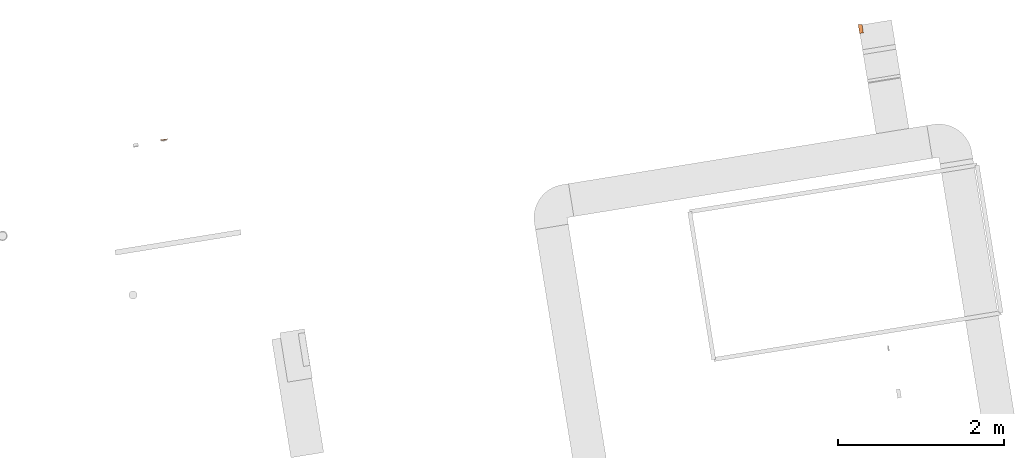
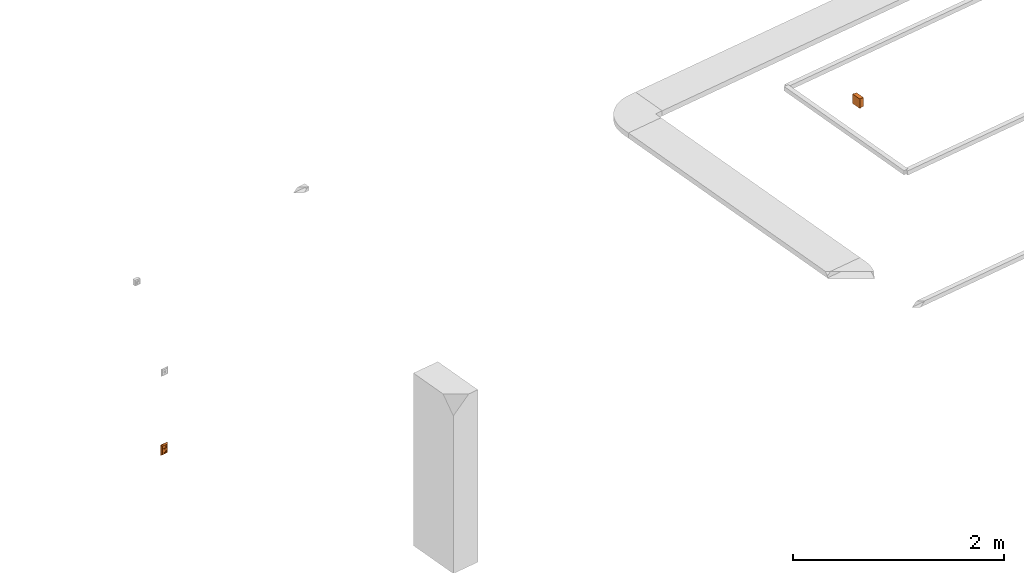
# One storey, part 18 of 20: 2 proxies.
"""IFC2X3 building model written with IfcOpenShell, lengths in millimetres."""

import ifcopenshell
import ifcopenshell.guid

model = None  # the IFC model being written
_history = None  # IfcOwnerHistory: only IFC2X3 demands one
_inside = {}  # id of a spatial element -> (the spatial element, [elements in it])
_under = {}  # id of a project, library or spatial element -> (it, [spatial elements below it])
_declared = {}  # id of a project -> (the project, [libraries it declares])
_typed = {}  # id of a type object -> (the type object, [elements of that type])
_made_of = {}  # id of a material, layer set ... -> (it, [elements and type objects made of it])


def new_model(schema):
    """Start an empty IFC model of exactly this schema.

    Asked for "IFC4X3", IfcOpenShell would pick the latest addendum, in which some entities
    have other attributes; the version numbers below select the first issue.
    IFC2X3 requires an IfcOwnerHistory on every rooted entity: one is made here for all.
    """
    global model, _history
    if schema == "IFC4X3":
        model = ifcopenshell.file(schema_version=(4, 3, 0, 0))
    else:
        model = ifcopenshell.file(schema=schema)
    _inside.clear()
    _under.clear()
    _declared.clear()
    _typed.clear()
    _made_of.clear()
    _history = None
    if model.schema == "IFC2X3":
        org = make("IfcOrganization", Name="unknown")
        user = make(
            "IfcPersonAndOrganization",
            ThePerson=make("IfcPerson", FamilyName="unknown"),
            TheOrganization=org,
        )
        app = make(
            "IfcApplication",
            ApplicationDeveloper=org,
            Version="unknown",
            ApplicationFullName="unknown",
            ApplicationIdentifier="unknown",
        )
        _history = make(
            "IfcOwnerHistory",
            OwningUser=user,
            OwningApplication=app,
            ChangeAction="ADDED",
            CreationDate=0,
        )
    return model


def make(cls, **values):
    """One entity of the class cls with the attributes given. An attribute that is None is left unset."""
    return model.create_entity(
        cls, **{name: value for name, value in values.items() if value is not None}
    )


def entity(cls, *values):
    """Any entity or typed value of the class cls, its attributes in the order of the schema. None: left unset."""
    e = model.create_entity(cls)
    for i, value in enumerate(values):
        if value is not None:
            e[i] = value
    return e


def rooted(cls, **values):
    """An entity with a GlobalId (a new one), such as an element, a storey or a relation."""
    return make(cls, GlobalId=ifcopenshell.guid.new(), OwnerHistory=_history, **values)


def si_unit(unit_type, name, prefix=None):
    """IfcSIUnit, for example si_unit("LENGTHUNIT", "METRE", prefix="MILLI")."""
    return make("IfcSIUnit", UnitType=unit_type, Prefix=prefix, Name=name)


def converted_unit(unit_type, name, factor, base, dimensions=None, offset=None):
    """IfcConversionBasedUnit, such as the inch: factor (a typed value) times the base unit."""
    return make(
        "IfcConversionBasedUnit"
        if offset is None
        else "IfcConversionBasedUnitWithOffset",
        ConversionOffset=offset,
        Dimensions=None
        if dimensions is None
        else entity("IfcDimensionalExponents", *dimensions),
        UnitType=unit_type,
        Name=name,
        ConversionFactor=make(
            "IfcMeasureWithUnit", ValueComponent=factor, UnitComponent=base
        ),
    )


def derived_unit(unit_type, elements):
    """IfcDerivedUnit: a product of units, each with its exponent."""
    return make(
        "IfcDerivedUnit",
        Elements=[
            make("IfcDerivedUnitElement", Unit=unit, Exponent=power)
            for unit, power in elements
        ],
        UnitType=unit_type,
    )


def assignment(units):
    """IfcUnitAssignment: the units of a project."""
    return None if units is None else make("IfcUnitAssignment", Units=units)


def point(xyz):
    """IfcCartesianPoint."""
    return None if xyz is None else make("IfcCartesianPoint", Coordinates=xyz)


def direction(xyz):
    """IfcDirection."""
    return None if xyz is None else make("IfcDirection", DirectionRatios=xyz)


def frame(location, z_axis=None, x_axis=None):
    """IfcAxis2Placement3D, a coordinate frame: its origin and axes. An axis left out is left unset."""
    return make(
        "IfcAxis2Placement3D",
        Location=point(location),
        Axis=direction(z_axis),
        RefDirection=direction(x_axis),
    )


def frame_2d(location, x_axis=None):
    """IfcAxis2Placement2D, a coordinate frame in the plane: its origin and x axis."""
    return make(
        "IfcAxis2Placement2D", Location=point(location), RefDirection=direction(x_axis)
    )


def origin():
    """The frame at (0, 0, 0) with its axes left unset."""
    return frame((0.0, 0.0, 0.0))


def origin_with_axes():
    """The frame at (0, 0, 0) with the z axis (0, 0, 1) and the x axis (1, 0, 0) written out."""
    return frame((0.0, 0.0, 0.0), z_axis=(0.0, 0.0, 1.0), x_axis=(1.0, 0.0, 0.0))


def origin_2d_with_axis():
    """The frame at (0, 0) in the plane with the x axis (1, 0) written out."""
    return frame_2d((0.0, 0.0), x_axis=(1.0, 0.0))


def place(relative_to, where):
    """IfcLocalPlacement: puts the frame where relative to a parent placement (None: the world)."""
    return make(
        "IfcLocalPlacement", PlacementRelTo=relative_to, RelativePlacement=where
    )


def context(
    kind, dimensions, precision=None, world=None, true_north=None, identifier=None
):
    """IfcGeometricRepresentationContext, for example the 3D "Model" context."""
    return make(
        "IfcGeometricRepresentationContext",
        ContextIdentifier=identifier,
        ContextType=kind,
        CoordinateSpaceDimension=dimensions,
        Precision=precision,
        WorldCoordinateSystem=world,
        TrueNorth=true_north,
    )


def subcontext(parent, identifier, kind, view, scale=None):
    """IfcGeometricRepresentationSubContext, for example "Body" below "Model"."""
    return make(
        "IfcGeometricRepresentationSubContext",
        ContextIdentifier=identifier,
        ContextType=kind,
        ParentContext=parent,
        TargetScale=scale,
        TargetView=view,
    )


def project(units=None, contexts=None):
    """IfcProject with its units and contexts."""
    return rooted(
        "IfcProject",
        Name="project",
        RepresentationContexts=contexts,
        UnitsInContext=assignment(units),
    )


def spatial(cls, under=None, at=None, **own):
    """A site, building, storey or space (cls), placed at a placement, below another one or the project."""
    s = rooted(cls, ObjectPlacement=at, **own)
    if under is not None:
        _under.setdefault(under.id(), (under, []))[1].append(s)
    return s


def profile(cls, at=None, kind="AREA", **sizes):
    """A parametric profile (cls). Its sizes go by their IFC names, for example OverallWidth=200.0."""
    return make(cls, ProfileType=kind, Position=at, **sizes)


def rectangle(**sizes):
    """IfcRectangleProfileDef."""
    return profile("IfcRectangleProfileDef", **sizes)


def extrude(swept, where, along, depth):
    """IfcExtrudedAreaSolid: the profile swept, set in the frame where, extruded along a direction by depth."""
    return make(
        "IfcExtrudedAreaSolid",
        SweptArea=swept,
        Position=where,
        ExtrudedDirection=direction(along),
        Depth=depth,
    )


def faces_of(points, faces, orient=None, outer=None):
    """IfcFace entities. A face is a list of loops; a loop is a list of indices into points, from 0.

    orient and outer hold one flag for each loop. By default every Orientation is true, the
    first loop of a face is its IfcFaceOuterBound and the others are IfcFaceBound.
    """
    made = []
    for i, loops in enumerate(faces):
        bounds = []
        for j, loop in enumerate(loops):
            is_outer = j == 0 if outer is None else outer[i][j]
            bounds.append(
                make(
                    "IfcFaceOuterBound" if is_outer else "IfcFaceBound",
                    Bound=make("IfcPolyLoop", Polygon=[points[k] for k in loop]),
                    Orientation=True if orient is None else orient[i][j],
                )
            )
        made.append(make("IfcFace", Bounds=bounds))
    return made


def faceted_brep(points, faces, orient=None, outer=None, voids=None):
    """IfcFacetedBrep: a solid bounded by flat faces; with voids (closed shells), ...WithVoids."""
    shared = [point(p) for p in points]
    hull = make("IfcClosedShell", CfsFaces=faces_of(shared, faces, orient, outer))
    if voids is None:
        return make("IfcFacetedBrep", Outer=hull)
    return make(
        "IfcFacetedBrepWithVoids",
        Outer=hull,
        Voids=[
            make(cls, CfsFaces=faces_of(shared, fs, o, b)) for cls, fs, o, b in voids
        ],
    )


def shape(context_of_items, identifier, shape_type, items):
    """IfcShapeRepresentation: the items that make up one representation, for example the "Body"."""
    return make(
        "IfcShapeRepresentation",
        ContextOfItems=context_of_items,
        RepresentationIdentifier=identifier,
        RepresentationType=shape_type,
        Items=items,
    )


def source(mapping_origin, context_of_items, identifier, shape_type, items):
    """IfcRepresentationMap: a shape defined once, which mapped items show again and again."""
    return make(
        "IfcRepresentationMap",
        MappingOrigin=mapping_origin,
        MappedRepresentation=shape(context_of_items, identifier, shape_type, items),
    )


def transform(
    local_origin,
    x_axis=None,
    y_axis=None,
    z_axis=None,
    scale=None,
    scale2=None,
    scale3=None,
    uniform=True,
):
    """IfcCartesianTransformationOperator3D, or its non-uniform kind. x_axis, y_axis, z_axis: its Axis1, 2, 3."""
    if uniform:
        return make(
            "IfcCartesianTransformationOperator3D",
            Axis1=direction(x_axis),
            Axis2=direction(y_axis),
            LocalOrigin=point(local_origin),
            Scale=scale,
            Axis3=direction(z_axis),
        )
    return make(
        "IfcCartesianTransformationOperator3DnonUniform",
        Axis1=direction(x_axis),
        Axis2=direction(y_axis),
        LocalOrigin=point(local_origin),
        Scale=scale,
        Axis3=direction(z_axis),
        Scale2=scale2,
        Scale3=scale3,
    )


def mapped(mapping_source, mapping_target):
    """IfcMappedItem: shows the shape of a source again, moved by a transform."""
    return make(
        "IfcMappedItem", MappingSource=mapping_source, MappingTarget=mapping_target
    )


def material(Name=None, Category=None):
    """IfcMaterial."""
    return make("IfcMaterial", Name=Name, Category=Category)


def material_list(materials):
    """IfcMaterialList."""
    return make("IfcMaterialList", Materials=materials)


def made_of(thing, what):
    """Note that an element or type object is made of a material, layer set ...; save() writes the relation."""
    if what is not None:
        _made_of.setdefault(what.id(), (what, []))[1].append(thing)
    return thing


def type_object(cls, material=None, **own):
    """A type object (cls), such as IfcWallType, which elements share."""
    return made_of(rooted(cls, **own), material)


def element(
    cls,
    number,
    at=None,
    inside=None,
    cuts=None,
    type_object=None,
    material=None,
    context=None,
    identifier="Body",
    shape_type=None,
    held_by="IfcProductDefinitionShape",
    body=None,
    shapes=None,
    **own,
):
    """One element of the class cls, such as IfcWall. Its Tag is "e" and its number.

    at: its placement. inside: the storey or other place that contains it. cuts: it is an
    opening in that element (IfcRelVoidsElement). A single representation is given by context,
    identifier, shape_type and body (its items); several are given by shapes. held_by: the class
    of the entity that holds the representations. save() writes the other relations.
    """
    e = rooted(cls, Tag="e%d" % number, ObjectPlacement=at, **own)
    if body is not None:
        shapes = [shape(context, identifier, shape_type, body)]
    if shapes is not None:
        e.Representation = make(held_by, Representations=shapes)
    if inside is not None:
        _inside.setdefault(inside.id(), (inside, []))[1].append(e)
    if cuts is not None:
        rooted(
            "IfcRelVoidsElement", RelatingBuildingElement=cuts, RelatedOpeningElement=e
        )
    if type_object is not None:
        _typed.setdefault(type_object.id(), (type_object, []))[1].append(e)
    return made_of(e, material)


def aggregate(whole, parts):
    """IfcRelAggregates: a whole, such as a stair, and the parts it consists of."""
    return rooted("IfcRelAggregates", RelatingObject=whole, RelatedObjects=parts)


def save(model, path):
    """Write the relations noted so far, then the file.

    IfcRelAggregates (storeys below a building ...), IfcRelContainedInSpatialStructure (elements
    in a storey), IfcRelDefinesByType, IfcRelAssociatesMaterial and IfcRelDeclares: one each for
    every whole, place, type object, material and project.
    """
    for whole, parts in _under.values():
        aggregate(whole, parts)
    for where, things in _inside.values():
        rooted(
            "IfcRelContainedInSpatialStructure",
            RelatedElements=things,
            RelatingStructure=where,
        )
    for kind, things in _typed.values():
        rooted("IfcRelDefinesByType", RelatedObjects=things, RelatingType=kind)
    for what, things in _made_of.values():
        rooted("IfcRelAssociatesMaterial", RelatedObjects=things, RelatingMaterial=what)
    for by, libraries in _declared.values():
        rooted("IfcRelDeclares", RelatingContext=by, RelatedDefinitions=libraries)
    model.write(path)


model = new_model("IFC2X3")

# Units and contexts
model_context = context("Model", 3, precision=0.01, world=origin(), true_north=direction((6.12323399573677e-17, 1.0)))
plan_context = context("Plan", 3, precision=1e-05, world=origin_with_axes())
body_context = subcontext(model_context, "Body", "Model", "MODEL_VIEW")
ifc_project = project(units=[converted_unit("PLANEANGLEUNIT", "DEGREE", entity("IfcPositiveLengthMeasure", 0.0174532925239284), si_unit("PLANEANGLEUNIT", "RADIAN"), dimensions=[0, 0, 0, 0, 0, 0, 0]), si_unit("AREAUNIT", "SQUARE_METRE"), si_unit("LENGTHUNIT", "METRE", prefix="MILLI"), si_unit("MASSUNIT", "GRAM", prefix="KILO"), si_unit("POWERUNIT", "WATT"), si_unit("PRESSUREUNIT", "PASCAL", prefix="KILO"), si_unit("FORCEUNIT", "NEWTON", prefix="KILO"), si_unit("ELECTRICVOLTAGEUNIT", "VOLT"), si_unit("ELECTRICCURRENTUNIT", "AMPERE"), si_unit("THERMODYNAMICTEMPERATUREUNIT", "DEGREE_CELSIUS"), si_unit("TIMEUNIT", "SECOND"), si_unit("VOLUMEUNIT", "CUBIC_METRE"), derived_unit("LINEARVELOCITYUNIT", [(si_unit("LENGTHUNIT", "METRE"), 1), (si_unit("TIMEUNIT", "SECOND"), -1)]), derived_unit("VOLUMETRICFLOWRATEUNIT", [(si_unit("VOLUMEUNIT", "CUBIC_METRE"), 1), (si_unit("TIMEUNIT", "SECOND"), -1)]), derived_unit("THERMALTRANSMITTANCEUNIT", [(si_unit("POWERUNIT", "WATT"), 1), (si_unit("THERMODYNAMICTEMPERATUREUNIT", "KELVIN"), -1), (si_unit("AREAUNIT", "SQUARE_METRE"), -1)]), derived_unit("SOUNDPRESSUREUNIT", [(si_unit("PRESSUREUNIT", "PASCAL"), 1)])], contexts=[model_context, plan_context])

# Site, building, storey
site_placement = place(None, frame((-0.219946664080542, 0.12226179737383, 0.0), z_axis=(0.0, 0.0, 1.0), x_axis=(-0.160236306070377, 0.987078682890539, 0.0)))
site = spatial("IfcSite", under=ifc_project, at=site_placement, Name="Default", CompositionType="ELEMENT")
building_placement = place(site_placement, origin_with_axes())
building = spatial("IfcBuilding", under=site, at=building_placement, CompositionType="ELEMENT")
storey_placement = place(building_placement, frame((0.0, 0.0, 50999.9999999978), z_axis=(0.0, 0.0, 1.0), x_axis=(1.0, 0.0, 0.0)))
storey = spatial("IfcBuildingStorey", under=building, at=storey_placement, Name="Nivå D", CompositionType="ELEMENT", Elevation=50999.9999999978)

# Proxies
ifc_material_1 = material(Name="Material3")
ifc_material_2 = material(Name="Material2")
ifc_material_3 = material(Name="Material1")
ifc_material_list = material_list([ifc_material_1, ifc_material_2, ifc_material_3])
building_element_proxy_type_1 = type_object("IfcBuildingElementProxyType", Name="Dobbel stikk vegg innf 2P+J vert PH:RECESSED-EARTHED-SOCKET-2(VER)", PredefinedType="NOTDEFINED", material=ifc_material_list)
shared_shape_1 = source(origin(), body_context, "Body", "Brep", [
    faceted_brep([(0.499999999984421, 17.9077381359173, -43.2900460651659), (0.499999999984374, 17.4980087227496, -43.5927590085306), (0.499999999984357, 17.0, -43.6999999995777), (0.499999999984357, 5.0, -43.6999999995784), (0.499999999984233, 5.0, -44.4999999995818), (0.499999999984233, 17.0, -44.4999999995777), (0.499999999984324, 18.4212520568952, -43.9112981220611), (0.499999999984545, 19.0099539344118, -42.490046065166), (0.499999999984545, 13.0337787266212, -42.4900460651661), (0.499999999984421, 13.0337787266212, -43.2900460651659), (-0.500000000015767, 5.0, -44.4999999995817), (-0.500000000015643, 5.0, -43.6999999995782), (-0.500000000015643, 17.0, -43.6999999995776), (-0.500000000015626, 17.4980087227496, -43.5927590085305), (-0.500000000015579, 17.9077381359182, -43.2900460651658), (-0.500000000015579, 13.0337787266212, -43.2900460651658), (-0.500000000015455, 13.0337787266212, -42.4900460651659), (-0.500000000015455, 19.0099539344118, -42.4900460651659), (-0.500000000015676, 18.4212520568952, -43.911298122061), (-0.500000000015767, 17.0, -44.4999999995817)], [[[0, 1, 2, 3, 4, 5, 6, 7, 8, 9]], [[10, 11, 12, 13, 14, 15, 16, 17, 18, 19]], [[10, 19, 5, 4]], [[11, 10, 4, 3]], [[12, 11, 3, 2]], [[2, 1, 13, 12]], [[0, 14, 13, 1]], [[15, 14, 0, 9]], [[16, 15, 9, 8]], [[17, 16, 8, 7]], [[17, 7, 6, 18]], [[6, 5, 19, 18]]]),
    faceted_brep([(-0.500000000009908, 17.9240022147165, -6.72220296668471), (-0.500000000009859, 17.5079457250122, -6.41055048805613), (-0.500000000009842, 17.0, -6.29999999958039), (-0.500000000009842, 5.0, -6.29999999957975), (-0.500000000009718, 5.0, -5.49999999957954), (-0.500000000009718, 17.0, -5.49999999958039), (-0.50000000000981, 18.429913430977, -6.09228953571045), (-0.500000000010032, 19.022202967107, -7.52220296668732), (-0.500000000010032, 13.0667616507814, -7.52220296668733), (-0.500000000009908, 13.0667616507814, -6.7222029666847), (0.499999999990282, 5.0, -5.4999999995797), (0.499999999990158, 5.0, -6.29999999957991), (0.499999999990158, 17.0, -6.29999999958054), (0.499999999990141, 17.5079457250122, -6.41055048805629), (0.499999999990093, 17.9240022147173, -6.72220296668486), (0.499999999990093, 13.0667616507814, -6.72220296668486), (0.499999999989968, 13.0667616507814, -7.52220296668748), (0.499999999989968, 19.022202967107, -7.52220296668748), (0.49999999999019, 18.429913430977, -6.09228953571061), (0.499999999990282, 17.0, -5.4999999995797)], [[[0, 1, 2, 3, 4, 5, 6, 7, 8, 9]], [[10, 11, 12, 13, 14, 15, 16, 17, 18, 19]], [[5, 19, 18, 6]], [[18, 17, 7, 6]], [[8, 7, 17, 16]], [[9, 8, 16, 15]], [[0, 9, 15, 14]], [[14, 13, 1, 0]], [[12, 2, 1, 13]], [[3, 2, 12, 11]], [[4, 3, 11, 10]], [[5, 4, 10, 19]]]),
    faceted_brep([(-0.500000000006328, 18.4212520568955, 6.0887018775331), (-0.500000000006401, 17.0, 5.5000000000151), (-0.500000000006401, 5.0, 5.5000000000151), (-0.500000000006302, 5.0, 6.30000000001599), (-0.500000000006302, 17.0, 6.30000000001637), (-0.500000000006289, 17.4980087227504, 6.40724099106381), (-0.500000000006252, 17.9077381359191, 6.70995393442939), (-0.500000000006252, 13.0337787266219, 6.70995393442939), (-0.500000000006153, 13.0337787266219, 7.50995393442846), (-0.500000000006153, 19.0099539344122, 7.50995393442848), (0.499999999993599, 5.0, 5.50000000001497), (0.499999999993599, 17.0, 5.50000000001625), (0.499999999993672, 18.4212520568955, 6.08870187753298), (0.499999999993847, 19.0099539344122, 7.50995393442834), (0.499999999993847, 13.0337787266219, 7.50995393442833), (0.499999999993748, 13.0337787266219, 6.70995393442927), (0.499999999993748, 17.9077381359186, 6.70995393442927), (0.499999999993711, 17.4980087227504, 6.40724099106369), (0.499999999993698, 17.0, 6.30000000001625), (0.499999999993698, 5.0, 6.30000000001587)], [[[0, 1, 2, 3, 4, 5, 6, 7, 8, 9]], [[10, 11, 12, 13, 14, 15, 16, 17, 18, 19]], [[2, 1, 11, 10]], [[3, 2, 10, 19]], [[4, 3, 19, 18]], [[18, 17, 5, 4]], [[16, 6, 5, 17]], [[7, 6, 16, 15]], [[8, 7, 15, 14]], [[9, 8, 14, 13]], [[9, 13, 12, 0]], [[12, 11, 1, 0]]]),
    faceted_brep([(-0.50000000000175, 17.9240022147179, 43.2777970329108), (-0.500000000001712, 17.5079457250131, 43.5894495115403), (-0.500000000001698, 17.0, 43.7000000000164), (-0.500000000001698, 5.0, 43.7000000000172), (-0.5000000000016, 5.0, 44.5000000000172), (-0.5000000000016, 17.0, 44.5000000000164), (-0.500000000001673, 18.4299134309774, 43.9077104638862), (-0.500000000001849, 19.0222029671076, 42.4777970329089), (-0.500000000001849, 13.0667616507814, 42.4777970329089), (-0.50000000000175, 13.0667616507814, 43.2777970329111), (0.4999999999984, 5.0, 44.5000000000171), (0.499999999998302, 5.0, 43.7000000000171), (0.499999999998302, 17.0, 43.7000000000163), (0.499999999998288, 17.5079457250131, 43.5894495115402), (0.49999999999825, 17.9240022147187, 43.277797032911), (0.49999999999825, 13.0667616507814, 43.277797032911), (0.499999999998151, 13.0667616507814, 42.4777970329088), (0.499999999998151, 19.0222029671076, 42.4777970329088), (0.499999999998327, 18.4299134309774, 43.9077104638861), (0.4999999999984, 17.0, 44.5000000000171)], [[[0, 1, 2, 3, 4, 5, 6, 7, 8, 9]], [[10, 11, 12, 13, 14, 15, 16, 17, 18, 19]], [[5, 19, 18, 6]], [[18, 17, 7, 6]], [[8, 7, 17, 16]], [[9, 8, 16, 15]], [[0, 9, 15, 14]], [[14, 13, 1, 0]], [[12, 2, 1, 13]], [[3, 2, 12, 11]], [[4, 3, 11, 10]], [[5, 4, 10, 19]]]),
    faceted_brep([(-8.89218180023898, 5.50000000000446, -26.4355061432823), (-10.0, 5.50000000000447, -27.5433243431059), (-11.2716621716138, 5.50000000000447, -26.2716621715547), (-12.5433243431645, 5.50000000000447, -25.0), (-11.107818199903, 5.50000000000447, -23.5644938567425), (-10.0, 5.50000000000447, -22.456675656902), (-8.72833782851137, 5.50000000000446, -23.7283378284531), (-7.45667565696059, 5.50000000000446, -25.0), (-7.45667565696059, 5.0, -25.0), (-8.72833782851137, 5.0, -23.7283378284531), (-10.0, 5.0, -22.456675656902), (-11.2716621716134, 5.0, -23.7283378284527), (-12.5433243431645, 5.0, -25.0), (-11.2716621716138, 5.0, -26.2716621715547), (-10.0, 5.0, -27.5433243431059), (-8.72833782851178, 5.0, -26.2716621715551)], [[[0, 1, 2, 3, 4, 5, 6, 7]], [[8, 9, 10, 11, 12, 13, 14, 15]], [[11, 10, 5, 4, 3, 12]], [[13, 12, 3, 2, 1, 14]], [[15, 14, 1, 0, 7, 8]], [[9, 8, 7, 6, 5, 10]]]),
    faceted_brep([(12.5429237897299, 5.0, -25.0), (11.2714618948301, 5.0, -23.7285381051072), (10.0, 5.0, -22.457076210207), (8.72853810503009, 5.0, -23.7285381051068), (7.4570762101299, 5.0, -25.0), (8.72853810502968, 5.0, -26.2714618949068), (10.0, 5.0, -27.542923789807), (11.2714618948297, 5.0, -26.2714618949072), (11.1077309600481, 5.50000000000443, -23.5648071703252), (12.5429237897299, 5.50000000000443, -25.0), (11.2714618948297, 5.50000000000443, -26.2714618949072), (10.0, 5.50000000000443, -27.542923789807), (8.89226903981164, 5.50000000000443, -26.4351928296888), (7.4570762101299, 5.50000000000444, -25.0), (8.72853810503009, 5.50000000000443, -23.7285381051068), (10.0, 5.50000000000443, -22.457076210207)], [[[0, 1, 2, 3, 4, 5, 6, 7]], [[8, 9, 10, 11, 12, 13, 14, 15]], [[15, 14, 13, 4, 3, 2]], [[13, 12, 11, 6, 5, 4]], [[11, 10, 9, 0, 7, 6]], [[9, 8, 15, 2, 1, 0]]]),
    faceted_brep([(-7.54751482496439, 5.50000000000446, 25.0), (-8.9121454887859, 5.50000000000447, 23.6353693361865), (-10.0, 5.50000000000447, 22.5475148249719), (-11.2262425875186, 5.50000000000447, 23.7737574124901), (-12.4524851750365, 5.50000000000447, 25.0), (-11.0878545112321, 5.50000000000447, 26.3646306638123), (-10.0, 5.50000000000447, 27.452485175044), (-8.77375741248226, 5.50000000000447, 26.2262425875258), (-11.2262425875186, 5.0, 23.7737574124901), (-10.0, 5.0, 22.5475148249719), (-8.77375741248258, 5.0, 23.7737574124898), (-7.54751482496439, 5.0, 25.0), (-8.77375741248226, 5.0, 26.2262425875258), (-10.0, 5.0, 27.452485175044), (-11.2262425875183, 5.0, 26.2262425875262), (-12.4524851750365, 5.0, 25.0)], [[[0, 1, 2, 3, 4, 5, 6, 7]], [[8, 9, 10, 11, 12, 13, 14, 15]], [[14, 13, 6, 5, 4, 15]], [[8, 15, 4, 3, 2, 9]], [[10, 9, 2, 1, 0, 11]], [[12, 11, 0, 7, 6, 13]]]),
    faceted_brep([(8.76085027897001, 5.0, 23.7608502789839), (10.0, 5.0, 22.5217005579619), (11.2391497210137, 5.0, 23.7608502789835), (12.4782994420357, 5.0, 25.0), (11.239149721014, 5.0, 26.2391497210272), (10.0, 5.0, 27.4782994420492), (8.76085027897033, 5.0, 26.2391497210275), (7.52170055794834, 5.0, 25.0), (11.2391497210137, 5.50000000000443, 23.7608502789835), (10.0, 5.50000000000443, 22.5217005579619), (8.90643522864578, 5.50000000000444, 23.6152653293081), (7.52170055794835, 5.50000000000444, 25.0), (8.76085027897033, 5.50000000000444, 26.2391497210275), (10.0, 5.50000000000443, 27.4782994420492), (11.0935647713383, 5.50000000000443, 26.384734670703), (12.4782994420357, 5.50000000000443, 25.0)], [[[0, 1, 2, 3, 4, 5, 6, 7]], [[8, 9, 10, 11, 12, 13, 14, 15]], [[13, 12, 11, 7, 6, 5]], [[11, 10, 9, 1, 0, 7]], [[9, 8, 15, 3, 2, 1]], [[15, 14, 13, 5, 4, 3]]]),
    faceted_brep([(41.0, 5.0, -60.0), (19.318516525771, 5.0, -30.1763809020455), (17.3205080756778, 5.0, -35.0), (20.0, 5.0, -25.0), (14.1421356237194, 5.0, -39.1421356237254), (10.0, 5.0, -42.3205080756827), (5.17638090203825, 5.0, -44.3185165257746), (0.0, 5.0, -45.0), (19.3185165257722, 5.0, -19.8236190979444), (19.3185165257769, 5.0, 19.8236190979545), (-41.0, 5.0, -60.0), (41.0, 5.0, 60.0), (20.0, 5.0, 25.0), (19.3185165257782, 5.0, 30.1763809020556), (17.3205080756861, 5.0, 35.0), (14.1421356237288, 5.0, 39.1421356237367), (10.0, 5.0, 42.320508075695), (5.17638090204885, 5.0, 44.3185165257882), (0.0, 5.0, 45.0), (-41.0, 5.0, 60.0), (-19.3185165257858, 5.0, 19.8236190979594), (-20.0, 5.0, 25.0), (-5.17638090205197, 5.0, 44.3185165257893), (-10.0, 5.0, 42.3205080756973), (-14.1421356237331, 5.0, 39.14213562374), (-17.3205080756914, 5.0, 35.0), (-19.3185165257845, 5.0, 30.17638090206), (17.3205080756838, 5.0, 15.0), (17.3205080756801, 5.0, -15.0), (14.1421356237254, 5.0, 10.8578643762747), (14.1421356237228, 5.0, -10.8578643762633), (10.0, 5.0, 7.67949192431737), (10.0, 5.0, -7.67949192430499), (5.17638090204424, 5.0, 5.68148347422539), (5.17638090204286, 5.0, -5.68148347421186), (0.0, 5.0, -5.0), (0.0, 5.0, 5.0), (-5.17638090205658, 5.0, 5.68148347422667), (-5.17638090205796, 5.0, -5.68148347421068), (-10.0, 5.0, -7.67949192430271), (-10.0, 5.0, 7.67949192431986), (-14.1421356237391, 5.0, -10.8578643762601), (-14.1421356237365, 5.0, 10.8578643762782), (-17.3205080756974, 5.0, -15.0), (-17.3205080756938, 5.0, 15.0), (-19.3185165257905, 5.0, -19.82361909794), (-20.0, 5.0, -25.0), (-5.17638090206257, 5.0, -44.3185165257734), (-10.0, 5.0, -42.3205080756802), (-14.1421356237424, 5.0, -39.1421356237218), (-17.3205080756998, 5.0, -35.0), (-19.3185165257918, 5.0, -30.1763809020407), (-31.0, 17.0, -50.0), (-19.3185165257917, 17.0, -30.1763809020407), (-17.3205080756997, 17.0, -35.0), (-20.0, 17.0, -25.0), (-14.1421356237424, 17.0, -39.1421356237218), (-10.0, 17.0, -42.3205080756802), (-5.17638090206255, 17.0, -44.3185165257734), (0.0, 17.0, -45.0), (-19.3185165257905, 17.0, -19.82361909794), (-19.3185165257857, 17.0, 19.8236190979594), (31.0, 17.0, -50.0), (-31.0, 17.0, 50.0), (-20.0, 17.0, 25.0), (-19.3185165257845, 17.0, 30.17638090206), (-17.3205080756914, 17.0, 35.0), (-14.1421356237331, 17.0, 39.14213562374), (-10.0, 17.0, 42.3205080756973), (-5.17638090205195, 17.0, 44.3185165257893), (0.0, 17.0, 45.0), (31.0, 17.0, 50.0), (5.17638090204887, 17.0, 44.3185165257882), (10.0, 17.0, 42.320508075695), (14.1421356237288, 17.0, 39.1421356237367), (17.3205080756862, 17.0, 35.0), (19.3185165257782, 17.0, 30.1763809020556), (20.0, 17.0, 25.0), (19.318516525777, 17.0, 19.8236190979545), (5.17638090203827, 17.0, -44.3185165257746), (10.0, 17.0, -42.3205080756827), (14.1421356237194, 17.0, -39.1421356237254), (17.3205080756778, 17.0, -35.0), (19.318516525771, 17.0, -30.1763809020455), (20.0, 17.0, -25.0), (19.3185165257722, 17.0, -19.8236190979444), (17.3205080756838, 17.0, 15.0), (-17.3205080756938, 17.0, 15.0), (-17.3205080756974, 17.0, -15.0), (-14.1421356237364, 17.0, 10.8578643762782), (-14.1421356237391, 17.0, -10.8578643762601), (-10.0, 17.0, 7.67949192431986), (-10.0, 17.0, -7.67949192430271), (-5.17638090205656, 17.0, 5.68148347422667), (-5.17638090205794, 17.0, -5.68148347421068), (0.0, 17.0, -5.0), (0.0, 17.0, 5.0), (5.17638090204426, 17.0, 5.68148347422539), (5.17638090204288, 17.0, -5.68148347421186), (10.0, 17.0, -7.67949192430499), (10.0, 17.0, 7.67949192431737), (14.1421356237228, 17.0, -10.8578643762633), (14.1421356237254, 17.0, 10.8578643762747), (17.3205080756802, 17.0, -15.0)], [[[0, 1, 2]], [[1, 0, 3]], [[0, 2, 4]], [[4, 5, 0]], [[5, 6, 0]], [[0, 6, 7]], [[8, 3, 0]], [[8, 0, 9]], [[7, 10, 0]], [[0, 11, 9]], [[11, 12, 9]], [[12, 11, 13]], [[13, 11, 14]], [[15, 14, 11]], [[15, 11, 16]], [[17, 16, 11]], [[11, 18, 17]], [[18, 11, 19]], [[20, 19, 10]], [[20, 21, 19]], [[22, 18, 19]], [[23, 22, 19]], [[19, 24, 23]], [[24, 19, 25]], [[26, 25, 19]], [[26, 19, 21]], [[27, 8, 9]], [[27, 28, 8]], [[27, 29, 28]], [[28, 29, 30]], [[29, 31, 30]], [[32, 30, 31]], [[31, 33, 32]], [[32, 33, 34]], [[35, 34, 33]], [[33, 36, 35]], [[36, 37, 35]], [[35, 37, 38]], [[39, 38, 37]], [[37, 40, 39]], [[41, 39, 40]], [[40, 42, 41]], [[41, 42, 43]], [[42, 44, 43]], [[44, 45, 43]], [[20, 45, 44]], [[10, 45, 20]], [[46, 45, 10]], [[7, 47, 10]], [[47, 48, 10]], [[49, 10, 48]], [[10, 49, 50]], [[10, 50, 51]], [[51, 46, 10]], [[52, 53, 54]], [[53, 52, 55]], [[52, 54, 56]], [[56, 57, 52]], [[57, 58, 52]], [[52, 58, 59]], [[60, 55, 52]], [[52, 61, 60]], [[59, 62, 52]], [[61, 52, 63]], [[63, 64, 61]], [[64, 63, 65]], [[65, 63, 66]], [[67, 66, 63]], [[67, 63, 68]], [[69, 68, 63]], [[63, 70, 69]], [[70, 63, 71]], [[72, 70, 71]], [[73, 72, 71]], [[71, 74, 73]], [[74, 71, 75]], [[76, 75, 71]], [[76, 71, 77]], [[78, 77, 71]], [[78, 71, 62]], [[59, 79, 62]], [[79, 80, 62]], [[81, 62, 80]], [[62, 81, 82]], [[62, 82, 83]], [[83, 84, 62]], [[84, 85, 62]], [[62, 85, 78]], [[86, 78, 85]], [[61, 87, 60]], [[88, 60, 87]], [[87, 89, 88]], [[88, 89, 90]], [[89, 91, 90]], [[92, 90, 91]], [[91, 93, 92]], [[92, 93, 94]], [[95, 94, 93]], [[93, 96, 95]], [[96, 97, 95]], [[95, 97, 98]], [[99, 98, 97]], [[97, 100, 99]], [[101, 99, 100]], [[100, 102, 101]], [[101, 102, 103]], [[102, 86, 103]], [[85, 103, 86]], [[10, 52, 62, 0]], [[0, 62, 71, 11]], [[11, 71, 63, 19]], [[19, 63, 52, 10]], [[64, 21, 20, 61]], [[61, 20, 44, 87]], [[91, 89, 42, 40]], [[42, 89, 87, 44]], [[93, 91, 40, 37]], [[93, 37, 36, 96]], [[96, 36, 33, 97]], [[97, 33, 31, 100]], [[86, 102, 29, 27]], [[29, 102, 100, 31]], [[78, 86, 27, 9]], [[78, 9, 12, 77]], [[77, 12, 13, 76]], [[76, 13, 14, 75]], [[73, 74, 15, 16]], [[15, 74, 75, 14]], [[72, 73, 16, 17]], [[72, 17, 18, 70]], [[70, 18, 22, 69]], [[69, 22, 23, 68]], [[66, 67, 24, 25]], [[24, 67, 68, 23]], [[65, 66, 25, 26]], [[65, 26, 21, 64]], [[55, 46, 51, 53]], [[53, 51, 50, 54]], [[57, 56, 49, 48]], [[49, 56, 54, 50]], [[58, 57, 48, 47]], [[58, 47, 7, 59]], [[59, 7, 6, 79]], [[79, 6, 5, 80]], [[82, 81, 4, 2]], [[4, 81, 80, 5]], [[83, 82, 2, 1]], [[83, 1, 3, 84]], [[84, 3, 8, 85]], [[85, 8, 28, 103]], [[99, 101, 30, 32]], [[30, 101, 103, 28]], [[98, 99, 32, 34]], [[98, 34, 35, 95]], [[95, 35, 38, 94]], [[94, 38, 39, 92]], [[88, 90, 41, 43]], [[41, 90, 92, 39]], [[60, 88, 43, 45]], [[60, 45, 46, 55]]]),
    faceted_brep([(-41.0, 0.0, -60.0), (41.0, 0.0, -60.0), (41.0, 0.0, 60.0), (-41.0, 0.0, 60.0), (-41.0, 5.0, -60.0), (-41.0, 5.0, 60.0), (41.0, 5.0, 60.0), (41.0, 5.0, -60.0)], [[[0, 1, 2, 3]], [[4, 5, 6, 7]], [[1, 0, 4, 7]], [[2, 1, 7, 6]], [[3, 2, 6, 5]], [[0, 3, 5, 4]]]),
])
proxy_1_placement = place(storey_placement, frame((779739.189291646, -593109.075561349, 200.0), z_axis=(0.0, 0.0, 1.0), x_axis=(0.0, 1.0, 0.0)))
element("IfcBuildingElementProxy", 1, at=proxy_1_placement, inside=storey, type_object=building_element_proxy_type_1, material=ifc_material_list, Name="Dobbel stikk vegg innf 2P+J vert PH:RECESSED-EARTHED-SOCKET-2(VER)", ObjectType="Dobbel stikk vegg innf 2P+J vert PH:RECESSED-EARTHED-SOCKET-2(VER)", context=body_context, shape_type="MappedRepresentation", body=[
    mapped(shared_shape_1, transform((0.0, 0.0, 0.0), scale=1.0)),
])
ifc_material_4 = material(Name="<Unnamed>")
building_element_proxy_type_2 = type_object("IfcBuildingElementProxyType", Name="1612510-0001:Junction box1", PredefinedType="NOTDEFINED", material=ifc_material_4)
shared_shape_2 = source(origin(), body_context, "Body", "SweptSolid", [
    extrude(rectangle(XDim=110.0, YDim=13.8000001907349, at=frame_2d((0.0, 2.22044604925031e-15), x_axis=(1.0, 0.0))), frame((0.0, 39.1000008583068, -55.0)), (0.0, 0.0, 1.0), 110.0),
    extrude(rectangle(XDim=104.0, YDim=32.2000007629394, at=origin_2d_with_axis()), frame((0.0, 16.1000003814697, -52.0)), (0.0, 0.0, 1.0), 104.0),
])
proxy_2_placement = place(storey_placement, frame((779705.484777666, -601616.00179399, 500.0), z_axis=(0.0, 0.0, 1.0), x_axis=(1.0, 0.0, 0.0)))
element("IfcBuildingElementProxy", 2, at=proxy_2_placement, inside=storey, type_object=building_element_proxy_type_2, material=ifc_material_4, Name="1612510-0001:Junction box1", ObjectType="1612510-0001:Junction box1", context=body_context, shape_type="MappedRepresentation", body=[
    mapped(shared_shape_2, transform((0.0, 0.0, 0.0), scale=1.0)),
])

save(model, "model.ifc")
